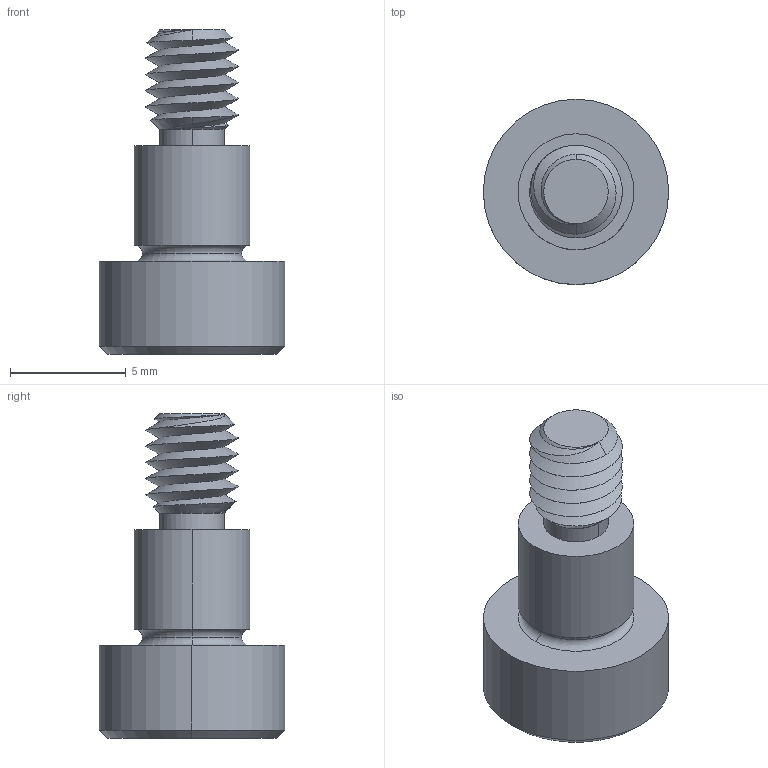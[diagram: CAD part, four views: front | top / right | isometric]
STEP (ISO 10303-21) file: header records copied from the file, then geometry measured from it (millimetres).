
FILE_DESCRIPTION (( 'STEP AP203' ), '1' );
FILE_NAME ('P0130.050-005-B2.step', '2021-11-09T21:11:12', ( '' ), ( '' ), 'SwSTEP 2.0', 'SolidWorks 2019', '' );
FILE_SCHEMA (( 'CONFIG_CONTROL_DESIGN' ));
Length unit declared in the file: millimetre
Products named in the file (1): P0130.050-005-B2
Bounding box: 8 x 8 x 14 mm (x, y, z)
Volume: 322.5 mm3; surface area: 394 mm2
Topology: 1 solids, 1 shells, 53 faces, 121 edges, 71 vertices
Faces by surface type: cylinder 16, plane 16, cone 15, torus 4, bspline 2
Entity records: 2151 total; most frequent: CARTESIAN_POINT 968, ORIENTED_EDGE 238, DIRECTION 226, EDGE_CURVE 119, AXIS2_PLACEMENT_3D 92, VERTEX_POINT 71, EDGE_LOOP 56, FACE_OUTER_BOUND 53
